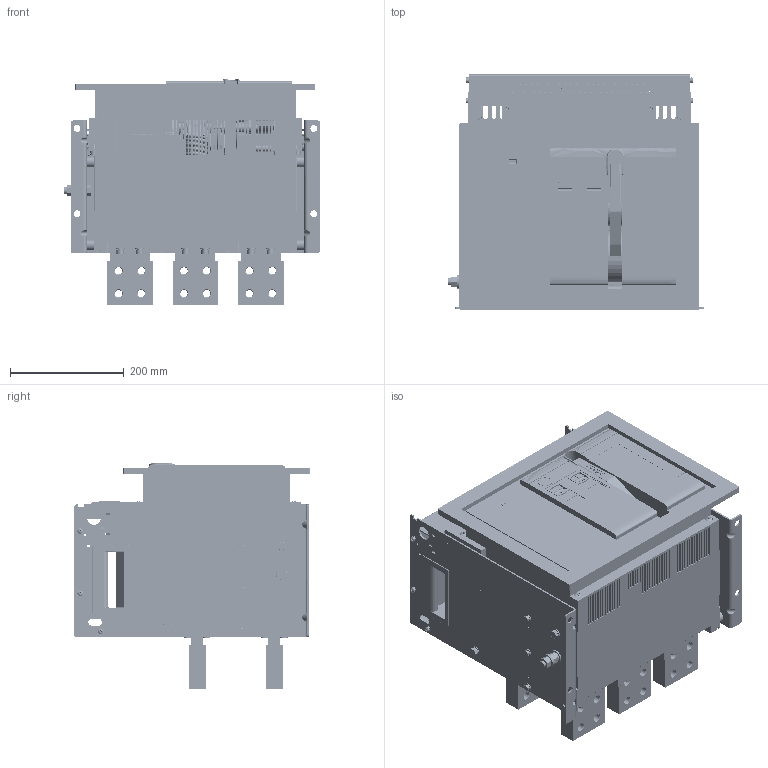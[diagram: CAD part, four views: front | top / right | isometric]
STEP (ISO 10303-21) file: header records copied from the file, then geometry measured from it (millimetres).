
FILE_DESCRIPTION (( 'STEP AP203' ), '1' );
FILE_NAME ('TGW1N-4000 F 3P 3600A-4000A.STEP', '2026-06-01T11:11:57', ( '' ), ( '' ), 'SwSTEP 2.0', 'SolidWorks 2024', '' );
FILE_SCHEMA (( 'CONFIG_CONTROL_DESIGN' ));
Length unit declared in the file: millimetre
Products named in the file (230): 5TZD_315_1007_AF1_ASM_1.stp; GB_T6170-M6_AF7_1.stp; GB_T818-M6X35_AF5_1.stp; 8TZD_161_1041_AF1_1.stp; 5TZD_558_1207_1.stp; GB_T97_1_6_1.stp; 8TZD_288_1415_AF0_1.stp; 8TZD_212_1012_AF6.stp; 2222222222_1.stp; 8TZD_043_1228_AF4_1.stp; 8TZD_064_1010_AF4_1.stp; 8TZD_941_1000_AF7_1.stp; GB_T97_1_6_AF11_1.stp; 8TZD_552_1060_AF2.stp; GB_T9074_4-M4X9_AF3_1.stp; 8TZD_580_1091_AF4_1.stp; 5TZD_024_1265_AF1_ASM_1.stp; GB_T9074_4-M6X80_AF6_1.stp; 8TZD_206_1099_AF1_1.stp; 8TZD_050_1046_1.stp; 8TZD_940_1005_AF3_1.stp; GB_T6170-M6_AF8_1.stp; 6TZD_262_6000_AF8_1.stp; 5TZD_552_1182_AF3_ASM_1.stp; 2000SB_ASM_1.stp; 5TZD_050_1014_ASM_1.stp; 8TZD_947_1003_AF2_1.stp; 8TZD_941_1000_AF3.stp; GB_T845-ST2_9X9_5-C_1.stp; 8TZD_300_6067_1.stp; 8TZD_580_1091_AF3_1.stp; GB_T819_1-M6X16_AF7.stp; GB_T5782-M6X25_AF11_1.stp; 5TZD_552_1182_AF5_ASM_1.stp; 8TZD_947_1003_AF3_1.stp; 8TZD_212_1012_AF4.stp; GB_T6170-M6_AF10_1.stp; 5555555555555_1.stp; 8TZD_940_1003_1.stp; 8TZD_161_1042_AF1_1.stp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
Assembly tree (372 placements, depth 6):
  TGW1N-4000 F 3P 3600A-4000A
    TGW1N-4000 F 3P 3600A-4000A.stp
      5TZD_024_1265_AF1_ASM_1.stp
        5TZD_024_1263_AF1_ASM_1.stp
          8TZD_024_6038_AF1_1.stp
          8TZD_947_1003_AF2_1.stp
          8TZD_947_1003_AF3_1.stp
          8TZD_947_1002_AF5.stp
          8TZD_947_1002_AF6.stp
          8TZD_947_1002_AF7.stp
          8TZD_947_1002_AF8_1.stp
          8TZD_947_1002_AF9_1.stp
          GB_T809-M6X12-B_AF3_1.stp
          GB_T809-M6X12-B_AF4_1.stp
        5TZD_580_1026_AF3_ASM_1.stp
          5TZD_580_1024_AF3_ASM_1.stp
            8TZD_580_1091_AF3_1.stp
          5TZD_141_1019_AF3_ASM_1.stp
            8TZD_206_1018_AF7_1.stp
          8TZD_043_1228_AF3_1.stp
          8TZD_104_1084_AF3_1.stp
          GB_T845-ST6_3X16-C_AF18_1.stp
          GB_T845-ST6_3X16-C_AF19_1.stp
          GB_T845-ST6_3X16-C_AF20_1.stp
          GB_T5782-M6X25_AF6_1.stp
          GB_T6170-M6_AF6_1.stp
          GB_T5782-M6X25_AF7_1.stp
          GB_T6170-M6_AF7_1.stp
        5TZD_580_1026_AF4_ASM_1.stp
          5TZD_580_1024_AF4_ASM_1.stp
            8TZD_580_1091_AF4_1.stp
          8TZD_043_1228_AF4_1.stp
          GB_T5782-M6X25_AF8_1.stp
          GB_T6170-M6_AF8_1.stp
          GB_T5782-M6X25_AF9_1.stp
          GB_T6170-M6_AF9_1.stp
        5TZD_580_1026_AF5_ASM_1.stp
          5TZD_580_1024_AF5_ASM_1.stp
            8TZD_580_1091_AF5_1.stp
          8TZD_043_1228_AF5_1.stp
          8TZD_104_1084_AF5_1.stp
          GB_T845-ST6_3X16-C_AF34_1.stp
          GB_T5782-M6X25_AF10_1.stp
          GB_T6170-M6_AF10_1.stp
          GB_T5782-M6X25_AF11_1.stp
          GB_T6170-M6_AF11_1.stp
        8TZD_156_1099_AF3_1.stp
        8TZD_156_1099_AF4_1.stp
        8TZD_156_1099_AF5_1.stp
        GB_T97_1_6_AF11_1.stp
        GB_T818-M6X35_AF3_1.stp
        GB_T97_1_6_AF14_1.stp
        GB_T818-M6X35_AF4_1.stp
        GB_T97_1_6_AF17_1.stp
        GB_T818-M6X35_AF5_1.stp
        8TZD_064_1010_AF3_1.stp
        8TZD_064_1010_AF4_1.stp
        8TZD_064_1010_AF5_1.stp
      5TZD_055_1038_AF1_ASM_1.stp
        5TZD_055_1037_AF0_ASM.stp
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Bounding box: 450 x 414.7 x 397.3 mm (x, y, z)
Volume: 6454265.1 mm3; surface area: 3850621.6 mm2
Topology: 184 solids, 687 shells, 22905 faces, 57701 edges, 36202 vertices
Faces by surface type: plane 9326, cylinder 8054, torus 3310, cone 1250, bspline 596, sphere 369
Entity records: 744154 total; most frequent: CARTESIAN_POINT 266622, ORIENTED_EDGE 98565, DIRECTION 83477, EDGE_CURVE 49699, AXIS2_PLACEMENT_3D 31953, VERTEX_POINT 31516, EDGE_LOOP 22517, FACE_OUTER_BOUND 19601
